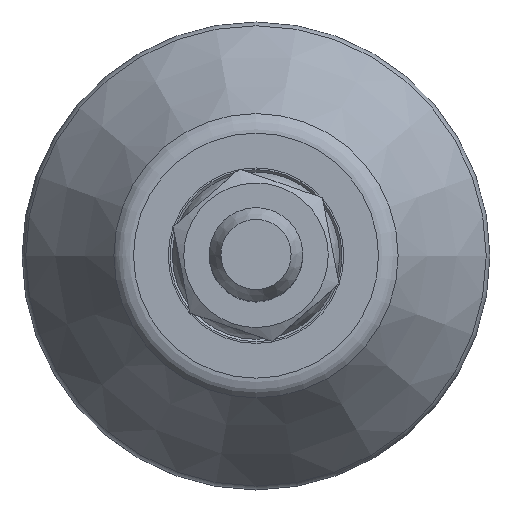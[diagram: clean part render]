
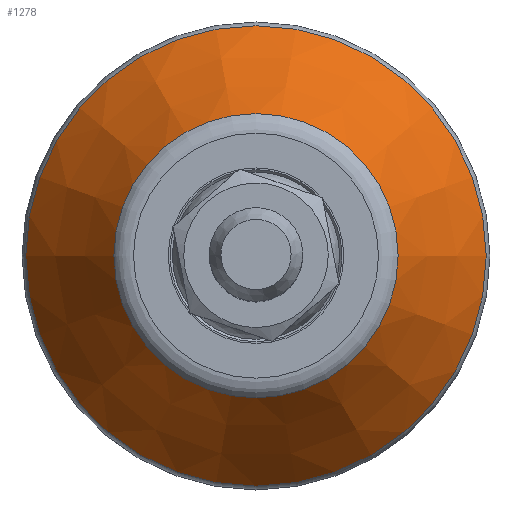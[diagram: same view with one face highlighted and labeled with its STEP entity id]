
A CAD part, top view. The second image highlights one B-rep face of the part: STEP entity #1278.
In plain terms, the highlighted conical face has half-angle 33 degrees and reference radius 15.913 mm.
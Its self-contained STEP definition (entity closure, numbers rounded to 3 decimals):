
#1278=ADVANCED_FACE('',(#2372,#2374),#2376,.T.);
#2372=FACE_BOUND('',#2373,.T.);
#2373=EDGE_LOOP('',(#3205,#3206));
#2374=FACE_BOUND('',#2375,.T.);
#2375=EDGE_LOOP('',(#3207,#3208));
#2376=CONICAL_SURFACE('',#2377,15.913,0.576);
#2377=AXIS2_PLACEMENT_3D('',#2378,#2379,#2380);
#2378=CARTESIAN_POINT('',(0.,0.,11.293));
#2379=DIRECTION('',(0.,0.,-1.));
#2380=DIRECTION('',(1.,0.,0.));
#3205=ORIENTED_EDGE('',*,*,#3670,.T.);
#3206=ORIENTED_EDGE('',*,*,#3669,.T.);
#3207=ORIENTED_EDGE('',*,*,#3673,.F.);
#3208=ORIENTED_EDGE('',*,*,#3674,.F.);
#3669=EDGE_CURVE('',#4297,#4298,#4299,.T.);
#3670=EDGE_CURVE('',#4298,#4297,#4300,.T.);
#3673=EDGE_CURVE('',#4305,#4306,#4307,.T.);
#3674=EDGE_CURVE('',#4306,#4305,#4308,.T.);
#4297=VERTEX_POINT('',#8241);
#4298=VERTEX_POINT('',#8242);
#4299=CIRCLE('',#8243,19.677);
#4300=CIRCLE('',#8247,19.677);
#4305=VERTEX_POINT('',#8261);
#4306=VERTEX_POINT('',#8262);
#4307=CIRCLE('',#8263,12.149);
#4308=CIRCLE('',#8267,12.149);
#8241=CARTESIAN_POINT('',(-19.677,0.,5.497));
#8242=CARTESIAN_POINT('',(19.677,0.,5.497));
#8243=AXIS2_PLACEMENT_3D('',#8244,#8245,#8246);
#8244=CARTESIAN_POINT('',(0.,0.,5.497));
#8245=DIRECTION('',(0.,0.,1.));
#8246=DIRECTION('',(-1.,0.,0.));
#8247=AXIS2_PLACEMENT_3D('',#8248,#8249,#8250);
#8248=CARTESIAN_POINT('',(0.,0.,5.497));
#8249=DIRECTION('',(0.,0.,1.));
#8250=DIRECTION('',(1.,0.,0.));
#8261=CARTESIAN_POINT('',(-12.149,0.,17.089));
#8262=CARTESIAN_POINT('',(12.149,0.,17.089));
#8263=AXIS2_PLACEMENT_3D('',#8264,#8265,#8266);
#8264=CARTESIAN_POINT('',(0.,0.,17.089));
#8265=DIRECTION('',(0.,0.,1.));
#8266=DIRECTION('',(-1.,0.,0.));
#8267=AXIS2_PLACEMENT_3D('',#8268,#8269,#8270);
#8268=CARTESIAN_POINT('',(0.,0.,17.089));
#8269=DIRECTION('',(0.,0.,1.));
#8270=DIRECTION('',(1.,0.,0.));
